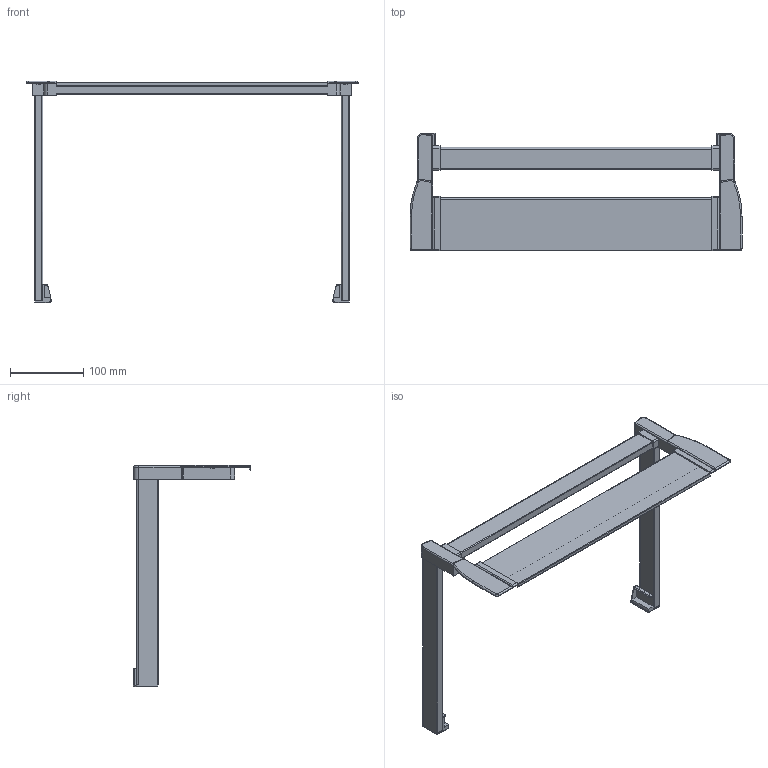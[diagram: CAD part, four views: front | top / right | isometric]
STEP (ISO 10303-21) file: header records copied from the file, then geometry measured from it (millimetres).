
FILE_DESCRIPTION (( 'STEP AP214' ), '1' );
FILE_NAME ('1_P620_NL 300_KAB 500_19er KS_.step', '2009-09-16T06:29:13', ( 'Waldinger Reinhard' ), ( 'Grass GmbH' ), 'SwSTEP 2.0', 'SolidWorks 2009', '' );
FILE_SCHEMA (( 'AUTOMOTIVE_DESIGN' ));
Length unit declared in the file: millimetre
Products named in the file (1): 1_P620_NL 300_KAB 500_19er KS_
Bounding box: 453.6 x 160.5 x 302.8 mm (x, y, z)
Volume: 734820.6 mm3; surface area: 175859.4 mm2
Topology: 1 solids, 1 shells, 220 faces, 578 edges, 364 vertices
Faces by surface type: plane 97, cylinder 91, torus 28, sphere 2, bspline 2
Entity records: 7004 total; most frequent: CARTESIAN_POINT 1345, DIRECTION 1198, ORIENTED_EDGE 1152, EDGE_CURVE 576, AXIS2_PLACEMENT_3D 433, VERTEX_POINT 364, VECTOR 332, LINE 332
